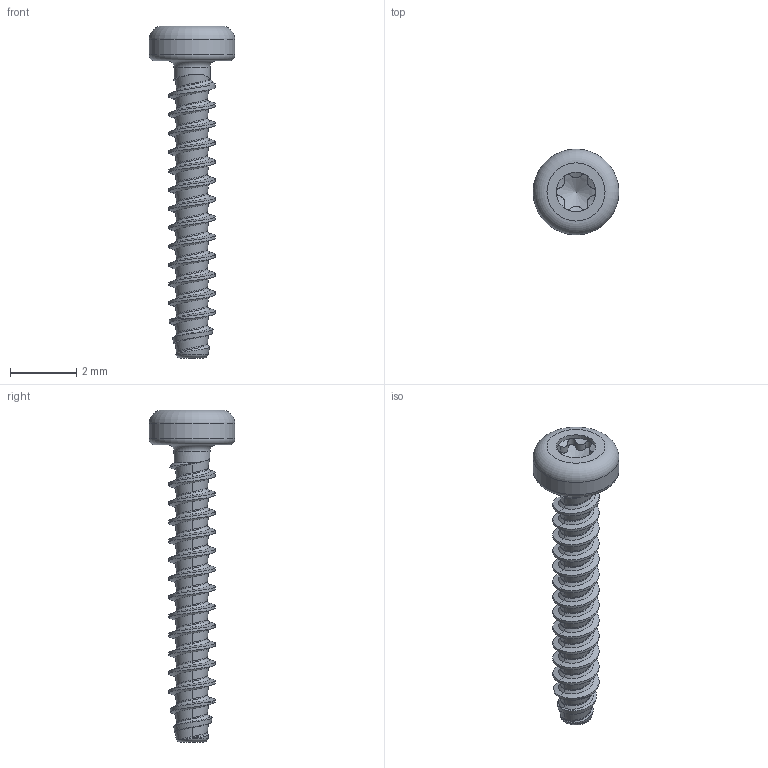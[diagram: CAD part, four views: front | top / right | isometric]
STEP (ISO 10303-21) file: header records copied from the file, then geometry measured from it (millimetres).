
FILE_DESCRIPTION(/* description */ (''),/* implementation_level */ '2;1');
FILE_NAME(/* name */ 'KN6039-STSplus-14x9.0-T3.step',/* time_stamp */ '2017-10-11T10:38:37+02:00',/* author */ (''),/* organization */ (''),/* preprocessor_version */ 'ST-DEVELOPER v16',/* originating_system */ 'SIEMENS PLM Software NX 10.0',/* authorisation */ '');
FILE_SCHEMA (('AUTOMOTIVE_DESIGN { 1 0 10303 214 3 1 1 1 }'));
Length unit declared in the file: millimetre
Products named in the file (1): KN6039-STSplus-14x9.0-T3
Bounding box: 2.6 x 2.6 x 10.05 mm (x, y, z)
Volume: 12.8 mm3; surface area: 63.9 mm2
Topology: 1 solids, 1 shells, 98 faces, 244 edges, 149 vertices
Faces by surface type: bspline 64, cylinder 17, cone 9, torus 4, plane 4
Full cylindrical faces by diameter (mm): 1.09 x1, 1.2 x1, 2.6 x1
Entity records: 7137 total; most frequent: CARTESIAN_POINT 5319, ORIENTED_EDGE 464, EDGE_CURVE 232, DIRECTION 179, VERTEX_POINT 146, B_SPLINE_CURVE_WITH_KNOTS 142, EDGE_LOOP 107, ADVANCED_FACE 98
